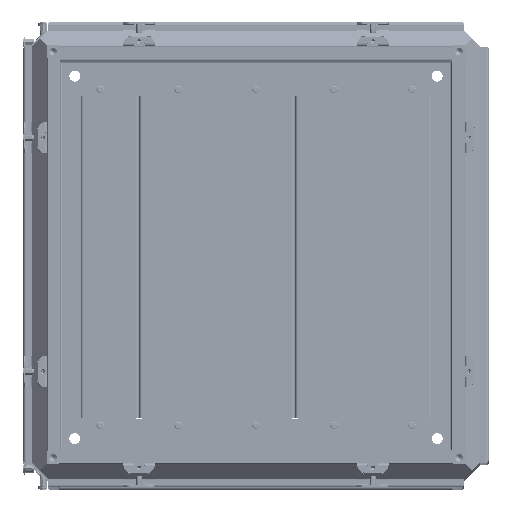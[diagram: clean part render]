
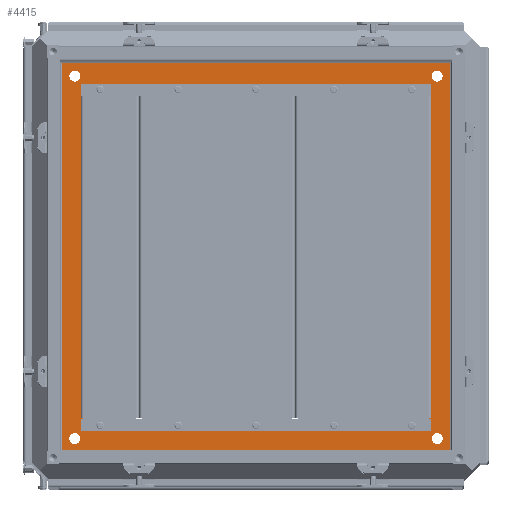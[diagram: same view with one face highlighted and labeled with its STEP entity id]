
A CAD part, top view. The second image highlights one B-rep face of the part: STEP entity #4415.
In plain terms, the highlighted planar face has unit normal (0, 0, 1).
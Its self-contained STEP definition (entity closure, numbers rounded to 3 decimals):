
#4415=ADVANCED_FACE('',(#17229,#17231,#17233,#17235,#17237,#17239),#17241,.F.);
#17229=FACE_BOUND('',#17230,.T.);
#17230=EDGE_LOOP('',(#115641,#115642,#115643,#115644));
#17231=FACE_BOUND('',#17232,.T.);
#17232=EDGE_LOOP('',(#115645,#115646,#115647,#115648));
#17233=FACE_BOUND('',#17234,.T.);
#17234=EDGE_LOOP('',(#115649));
#17235=FACE_BOUND('',#17236,.T.);
#17236=EDGE_LOOP('',(#115650));
#17237=FACE_BOUND('',#17238,.T.);
#17238=EDGE_LOOP('',(#115651));
#17239=FACE_BOUND('',#17240,.T.);
#17240=EDGE_LOOP('',(#115652));
#17241=PLANE('',#17242);
#17242=AXIS2_PLACEMENT_3D('',#17243,#17244,#17245);
#17243=CARTESIAN_POINT('',(0.,0.,-47.5));
#17244=DIRECTION('',(0.,0.,-1.));
#17245=DIRECTION('',(0.,1.,0.));
#115641=ORIENTED_EDGE('',*,*,#175519,.F.);
#115642=ORIENTED_EDGE('',*,*,#175520,.F.);
#115643=ORIENTED_EDGE('',*,*,#175521,.T.);
#115644=ORIENTED_EDGE('',*,*,#175522,.T.);
#115645=ORIENTED_EDGE('',*,*,#175523,.T.);
#115646=ORIENTED_EDGE('',*,*,#175524,.F.);
#115647=ORIENTED_EDGE('',*,*,#175525,.F.);
#115648=ORIENTED_EDGE('',*,*,#175526,.F.);
#115649=ORIENTED_EDGE('',*,*,#175527,.T.);
#115650=ORIENTED_EDGE('',*,*,#175528,.F.);
#115651=ORIENTED_EDGE('',*,*,#175529,.F.);
#115652=ORIENTED_EDGE('',*,*,#175530,.T.);
#175519=EDGE_CURVE('',#206358,#206359,#206360,.F.);
#175520=EDGE_CURVE('',#206361,#206358,#206362,.F.);
#175521=EDGE_CURVE('',#206361,#206363,#206364,.F.);
#175522=EDGE_CURVE('',#206363,#206359,#206365,.F.);
#175523=EDGE_CURVE('',#206366,#206367,#206368,.F.);
#175524=EDGE_CURVE('',#206369,#206367,#206370,.F.);
#175525=EDGE_CURVE('',#206371,#206369,#206372,.F.);
#175526=EDGE_CURVE('',#206366,#206371,#206373,.F.);
#175527=EDGE_CURVE('',#206374,#206374,#206375,.T.);
#175528=EDGE_CURVE('',#206376,#206376,#206377,.T.);
#175529=EDGE_CURVE('',#206378,#206378,#206379,.T.);
#175530=EDGE_CURVE('',#206380,#206380,#206381,.T.);
#206358=VERTEX_POINT('',#260055);
#206359=VERTEX_POINT('',#260056);
#206360=LINE('',#260057,#260058);
#206361=VERTEX_POINT('',#260060);
#206362=LINE('',#260061,#260062);
#206363=VERTEX_POINT('',#260064);
#206364=LINE('',#260065,#260066);
#206365=LINE('',#260068,#260069);
#206366=VERTEX_POINT('',#260071);
#206367=VERTEX_POINT('',#260072);
#206368=LINE('',#260073,#260074);
#206369=VERTEX_POINT('',#260076);
#206370=LINE('',#260077,#260078);
#206371=VERTEX_POINT('',#260080);
#206372=LINE('',#260081,#260082);
#206373=LINE('',#260084,#260085);
#206374=VERTEX_POINT('',#260087);
#206375=CIRCLE('',#260088,7.);
#206376=VERTEX_POINT('',#260092);
#206377=CIRCLE('',#260093,7.);
#206378=VERTEX_POINT('',#260097);
#206379=CIRCLE('',#260098,7.);
#206380=VERTEX_POINT('',#260102);
#206381=CIRCLE('',#260103,7.);
#260055=CARTESIAN_POINT('',(-1.6,1.6,-47.5));
#260056=CARTESIAN_POINT('',(-500.4,1.6,-47.5));
#260057=CARTESIAN_POINT('',(-500.4,1.6,-47.5));
#260058=VECTOR('',#260059,1.);
#260059=DIRECTION('',(1.,0.,0.));
#260060=CARTESIAN_POINT('',(-1.6,500.4,-47.5));
#260061=CARTESIAN_POINT('',(-1.6,1.6,-47.5));
#260062=VECTOR('',#260063,1.);
#260063=DIRECTION('',(0.,1.,0.));
#260064=CARTESIAN_POINT('',(-500.4,500.4,-47.5));
#260065=CARTESIAN_POINT('',(-500.4,500.4,-47.5));
#260066=VECTOR('',#260067,1.);
#260067=DIRECTION('',(1.,0.,0.));
#260068=CARTESIAN_POINT('',(-500.4,1.6,-47.5));
#260069=VECTOR('',#260070,1.);
#260070=DIRECTION('',(0.,1.,0.));
#260071=CARTESIAN_POINT('',(-39.4,39.4,-47.5));
#260072=CARTESIAN_POINT('',(-462.6,39.4,-47.5));
#260073=CARTESIAN_POINT('',(-462.6,39.4,-47.5));
#260074=VECTOR('',#260075,1.);
#260075=DIRECTION('',(1.,0.,0.));
#260076=CARTESIAN_POINT('',(-462.6,462.6,-47.5));
#260077=CARTESIAN_POINT('',(-462.6,39.4,-47.5));
#260078=VECTOR('',#260079,1.);
#260079=DIRECTION('',(0.,1.,0.));
#260080=CARTESIAN_POINT('',(-39.4,462.6,-47.5));
#260081=CARTESIAN_POINT('',(-462.6,462.6,-47.5));
#260082=VECTOR('',#260083,1.);
#260083=DIRECTION('',(1.,0.,0.));
#260084=CARTESIAN_POINT('',(-39.4,462.6,-47.5));
#260085=VECTOR('',#260086,1.);
#260086=DIRECTION('',(0.,-1.,0.));
#260087=CARTESIAN_POINT('',(-18.5,25.5,-47.5));
#260088=AXIS2_PLACEMENT_3D('',#260089,#260090,#260091);
#260089=CARTESIAN_POINT('',(-18.5,18.5,-47.5));
#260090=DIRECTION('',(0.,0.,-1.));
#260091=DIRECTION('',(0.,1.,0.));
#260092=CARTESIAN_POINT('',(-483.5,25.5,-47.5));
#260093=AXIS2_PLACEMENT_3D('',#260094,#260095,#260096);
#260094=CARTESIAN_POINT('',(-483.5,18.5,-47.5));
#260095=DIRECTION('',(0.,0.,1.));
#260096=DIRECTION('',(0.,1.,0.));
#260097=CARTESIAN_POINT('',(-18.5,476.5,-47.5));
#260098=AXIS2_PLACEMENT_3D('',#260099,#260100,#260101);
#260099=CARTESIAN_POINT('',(-18.5,483.5,-47.5));
#260100=DIRECTION('',(0.,0.,1.));
#260101=DIRECTION('',(0.,-1.,0.));
#260102=CARTESIAN_POINT('',(-483.5,476.5,-47.5));
#260103=AXIS2_PLACEMENT_3D('',#260104,#260105,#260106);
#260104=CARTESIAN_POINT('',(-483.5,483.5,-47.5));
#260105=DIRECTION('',(0.,0.,-1.));
#260106=DIRECTION('',(0.,-1.,0.));
